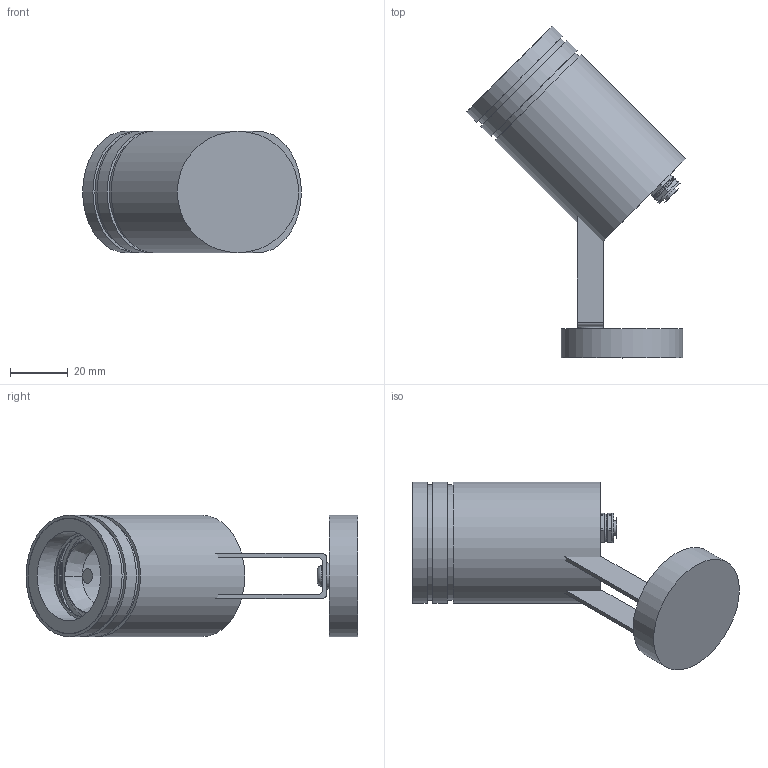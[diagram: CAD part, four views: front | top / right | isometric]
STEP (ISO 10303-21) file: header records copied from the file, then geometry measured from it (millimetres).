
FILE_DESCRIPTION(/* description */ (''),/* implementation_level */ '2;1');
FILE_NAME(/* name */ 'C:/Elena/ILM/02 3D/Corallino/Pubblico/Corallino bracket.step',/* time_stamp */ '2020-05-27T12:21:05+02:00',/* author */ (''),/* organization */ (''),/* preprocessor_version */ 'ST-DEVELOPER v18.1',/* originating_system */ 'Autodesk Translation Framework v9.3.0.1241',/* authorisation */ '');
FILE_SCHEMA (('AUTOMOTIVE_DESIGN { 1 0 10303 214 3 1 1 }'));
Length unit declared in the file: millimetre
Products named in the file (2): Corallino bracket; corallino
Assembly tree (1 placements, depth 2):
  Corallino bracket
    corallino
Bounding box: 75.66 x 114.83 x 42 mm (x, y, z)
Volume: 95402.1 mm3; surface area: 23251.6 mm2
Topology: 4 solids, 5 shells, 125 faces, 276 edges, 177 vertices
Faces by surface type: plane 60, cylinder 43, bspline 11, cone 9, torus 2
Full cylindrical faces by diameter (mm): 4 x4, 5 x1, 7 x1, 9 x1, 10.127 x1, 28.772 x1, 31 x1, 38 x2, 39.8 x1, 40 x3, 42 x4
Entity records: 4701 total; most frequent: CARTESIAN_POINT 1800, DIRECTION 627, ORIENTED_EDGE 552, EDGE_CURVE 276, AXIS2_PLACEMENT_3D 250, VERTEX_POINT 177, EDGE_LOOP 151, LINE 127
